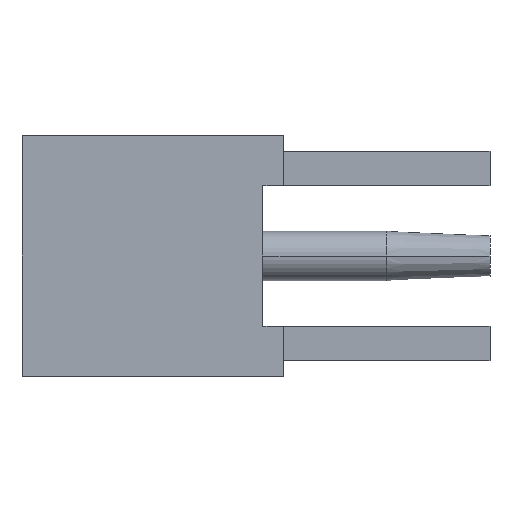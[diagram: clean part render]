
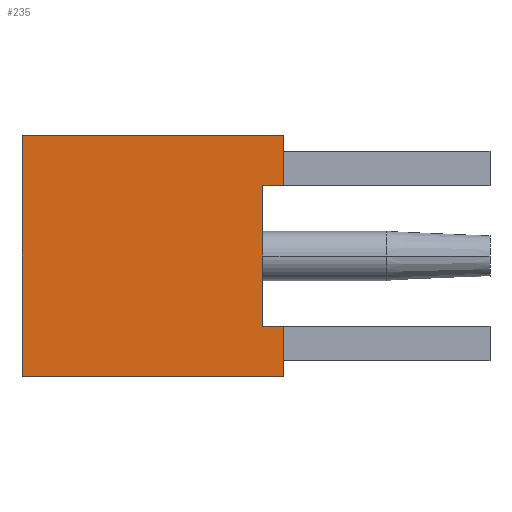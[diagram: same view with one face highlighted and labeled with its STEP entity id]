
A CAD part, left-side view. The second image highlights one B-rep face of the part: STEP entity #235.
In plain terms, the highlighted planar face has unit normal (-1, 0, 0).
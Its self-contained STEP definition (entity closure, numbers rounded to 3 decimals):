
#235=ADVANCED_FACE('',(#484),#485,.F.);
#484=FACE_OUTER_BOUND('',#739,.T.);
#485=PLANE('',#740);
#739=EDGE_LOOP('',(#1362,#1363,#1364,#1365,#1366,#1367,#1368,#1369));
#740=AXIS2_PLACEMENT_3D('',#1370,#1371,#1372);
#1362=ORIENTED_EDGE('',*,*,#1691,.T.);
#1363=ORIENTED_EDGE('',*,*,#1714,.T.);
#1364=ORIENTED_EDGE('',*,*,#1695,.T.);
#1365=ORIENTED_EDGE('',*,*,#1749,.F.);
#1366=ORIENTED_EDGE('',*,*,#1750,.F.);
#1367=ORIENTED_EDGE('',*,*,#1751,.T.);
#1368=ORIENTED_EDGE('',*,*,#1737,.F.);
#1369=ORIENTED_EDGE('',*,*,#1752,.F.);
#1370=CARTESIAN_POINT('',(-1.75,1.9,0.0));
#1371=DIRECTION('',(1.0,0.0,0.0));
#1372=DIRECTION('',(0.0,0.0,-1.0));
#1691=EDGE_CURVE('',#2054,#2052,#2055,.T.);
#1695=EDGE_CURVE('',#2060,#2061,#2062,.T.);
#1714=EDGE_CURVE('',#2052,#2060,#2093,.T.);
#1737=EDGE_CURVE('',#2127,#2129,#2130,.T.);
#1749=EDGE_CURVE('',#2144,#2061,#2145,.T.);
#1750=EDGE_CURVE('',#2146,#2144,#2147,.T.);
#1751=EDGE_CURVE('',#2146,#2129,#2148,.T.);
#1752=EDGE_CURVE('',#2054,#2127,#2149,.T.);
#2052=VERTEX_POINT('',#2622);
#2054=VERTEX_POINT('',#2625);
#2055=LINE('',#2626,#2627);
#2060=VERTEX_POINT('',#2634);
#2061=VERTEX_POINT('',#2635);
#2062=LINE('',#2636,#2637);
#2093=LINE('',#2684,#2685);
#2127=VERTEX_POINT('',#2735);
#2129=VERTEX_POINT('',#2738);
#2130=LINE('',#2739,#2740);
#2144=VERTEX_POINT('',#2761);
#2145=LINE('',#2762,#2763);
#2146=VERTEX_POINT('',#2764);
#2147=LINE('',#2765,#2766);
#2148=LINE('',#2767,#2768);
#2149=LINE('',#2769,#2770);
#2622=CARTESIAN_POINT('',(-1.75,0.3,-1.02));
#2625=CARTESIAN_POINT('',(-1.75,0.0,-1.02));
#2626=CARTESIAN_POINT('',(-1.75,1.1,-1.02));
#2627=VECTOR('',#3062,1.0);
#2634=CARTESIAN_POINT('',(-1.75,0.3,1.02));
#2635=CARTESIAN_POINT('',(-1.75,0.0,1.02));
#2636=CARTESIAN_POINT('',(-1.75,1.1,1.02));
#2637=VECTOR('',#3065,1.0);
#2684=CARTESIAN_POINT('',(-1.75,0.3,0.));
#2685=VECTOR('',#3082,1.0);
#2735=CARTESIAN_POINT('',(-1.75,0.0,-1.75));
#2738=CARTESIAN_POINT('',(-1.75,3.8,-1.75));
#2739=CARTESIAN_POINT('',(-1.75,1.9,-1.75));
#2740=VECTOR('',#3100,1.0);
#2761=CARTESIAN_POINT('',(-1.75,0.0,1.75));
#2762=CARTESIAN_POINT('',(-1.75,0.0,0.0));
#2763=VECTOR('',#3108,1.0);
#2764=CARTESIAN_POINT('',(-1.75,3.8,1.75));
#2765=CARTESIAN_POINT('',(-1.75,1.9,1.75));
#2766=VECTOR('',#3109,1.0);
#2767=CARTESIAN_POINT('',(-1.75,3.8,0.0));
#2768=VECTOR('',#3110,1.0);
#2769=CARTESIAN_POINT('',(-1.75,0.0,0.0));
#2770=VECTOR('',#3111,1.0);
#3062=DIRECTION('',(0.0,1.0,0.));
#3065=DIRECTION('',(0.0,-1.0,0.));
#3082=DIRECTION('',(-0.0,0.,1.0));
#3100=DIRECTION('',(0.0,1.0,0.0));
#3108=DIRECTION('',(0.0,0.0,-1.0));
#3109=DIRECTION('',(0.0,-1.0,0.0));
#3110=DIRECTION('',(0.0,0.0,-1.0));
#3111=DIRECTION('',(0.0,0.0,-1.0));
